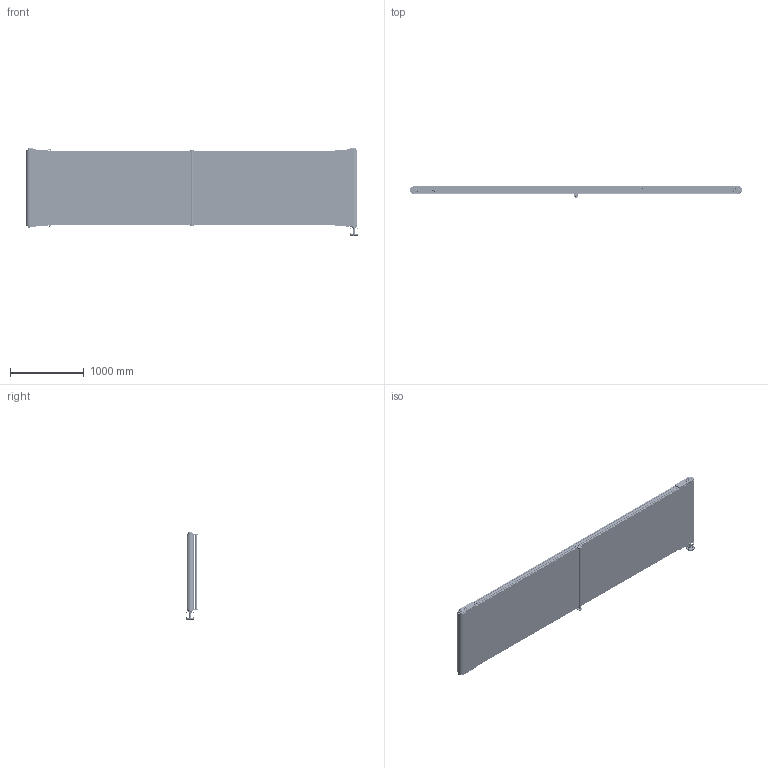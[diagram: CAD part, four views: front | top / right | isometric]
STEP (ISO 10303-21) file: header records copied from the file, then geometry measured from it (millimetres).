
FILE_DESCRIPTION (( 'STEP AP203' ), '1' );
FILE_NAME ('NASTRO_RETTILINEO_TAPPETO.step', '2026-06-02T09:00:17', ( 'Utente Windows' ), ( '' ), 'SwSTEP 2.0', 'SolidWorks 2024', '' );
FILE_SCHEMA (( 'CONFIG_CONTROL_DESIGN' ));
Length unit declared in the file: millimetre
Products named in the file (45): 084.301.000 VITI ALUSIC_084.301.003; VITI TE UNI 5739_M8x12 UNI 5739; 084.802.060_Default<A macchina>; 084.302.060; 084.803.003; NASTRO_RETTILINEO_TAPPETO; 084.802.017_084.802.017; 084.302.000 DADI ALUSIC 13x13-1_084.302.004; 084.802.014; 084.302.000 DADI ALUSIC 13x13-1_084.302.007; RULLO_95_CINGHIE_Default<A macchina>; VITE_RONDELLA_M8X20; 084.802.071; BLOCCO_BRACCIO_CH05P_CH05P; 449.014.106; 084.808.013; PERNO_95_TRAINO_CINGHIE_49_SX_Default<A macchina>; TELAIO_95_CINGHIE_Default<A macchina>; 084.808.003_084.808.003; VITI TSEI UNI 5933_M5x12 UNI 5933; BLOCCO_TRAINO_95_STANDARD_49_SX; VITE_DADO_M5X12; 084.808.002_084.808.002; BLOCCO_REGGITAPPETO; DADO ESAGONALE M30 AUTOBLOCCANTE UNI 7473_M30 UNI 7473; TAPPETO_STANDARD_CINGHIE; 0820ISO2342; GUIDA_CINGHIA_Z_95; 084.802.068; 084.802.013-2; VITI TSEI UNI 5933_M4x12 UNI 5933; 084.802.019_084.802.019; 084.802.028; 084.803.017; BLOCCO_TRAINO_95_STANDARD_CON TENDINASTRO E CARTER; BLOCCO_RINVIO_95_STANDARD_CON TENDINASTRO E CARTER; RULLO_REGGITAPPETO; LAMIERA_STANDARD; PERNO_95_RINVIO_CINGHIE; VITI TE UNI 5739_M6x12 UNI 5739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
Assembly tree (147 placements, depth 4):
  NASTRO_RETTILINEO_TAPPETO
    TAPPETO_STANDARD_CINGHIE
    TELAIO_95_CINGHIE_Default<A macchina>
    LAMIERA_STANDARD  x2
    RULLO_95_CINGHIE_Default<A macchina>  x2
    BLOCCO_TRAINO_95_STANDARD_CON TENDINASTRO E CARTER
      084.808.002_084.808.002
      084.302.060  x2
      084.802.019_084.802.019
      084.301.000 VITI ALUSIC_084.301.003  x6
      VITI TCEI UNI 5931_M4x25 UNI 5931  x2
      084.802.071
      084.802.068
      VITI TSEI UNI 5933_M4x12 UNI 5933  x2
    PERNO_95_TRAINO_CINGHIE_49_SX_Default<A macchina>
    BLOCCO_TRAINO_95_STANDARD_49_SX
      084.808.003_084.808.003
      084.302.060  x2
      084.802.034_084.802.034
      084.301.000 VITI ALUSIC_084.301.003  x6
      VITI TCEI UNI 5931_M4x25 UNI 5931  x2
      084.802.068
      BLOCCO_BRACCIO_CH05P_CH05P
        084.808.013
        084.802.062
        0820ISO2342
        084.802.060_Default<A macchina>
        VITI TE UNI 5739_M8x12 UNI 5739  x4
        VITI TE UNI 5739_M6x12 UNI 5739  x4
        084.803.017
        VITI TCEI UNI 5931_M6x12 UNI 5931  x4
    GUIDA_CINGHIA_Z_95  x4
      449.014.106
      DADO ESAGONALE M30 AUTOBLOCCANTE UNI 7473_M30 UNI 7473
    PERNO_95_RINVIO_CINGHIE
    BLOCCO_RINVIO_95_STANDARD_CON TENDINASTRO E CARTER  x2
      084.808.002_084.808.002
      084.803.003
      084.302.060
      084.802.019_084.802.019
      VITI TSEI UNI 5933_M4x12 UNI 5933
      084.302.000 DADI ALUSIC 13x13-1_084.302.004
      084.301.000 VITI ALUSIC_084.301.003
      084.802.071
    VITE_RONDELLA_M8X20  x29
      084.303.001
      084.301.000 VITI ALUSIC_084.301.003
    VITE_DADO_M5X12  x20
      084.302.000 DADI ALUSIC 13x13-1_084.302.007
      VITI TSEI UNI 5933_M5x12 UNI 5933
    BLOCCO_REGGITAPPETO  x2
      084.301.000 VITI ALUSIC_084.301.003
      084.302.000 DADI ALUSIC 13x13-1_084.302.004
      084.802.017_084.802.017
      084.802.028
      084.802.014
      084.802.013-2
    RULLO_REGGITAPPETO
Bounding box: 4506.5 x 163.5 x 1184 mm (x, y, z)
Volume: 57229605 mm3; surface area: 43879951.7 mm2
Topology: 257 solids, 262 shells, 9479 faces, 24237 edges, 15436 vertices
Faces by surface type: plane 5129, cylinder 2354, cone 845, bspline 612, torus 479, sphere 60
Entity records: 174526 total; most frequent: CARTESIAN_POINT 50942, ORIENTED_EDGE 25224, DIRECTION 23217, EDGE_CURVE 12612, VERTEX_POINT 8088, AXIS2_PLACEMENT_3D 7852, LINE 7513, VECTOR 7513
